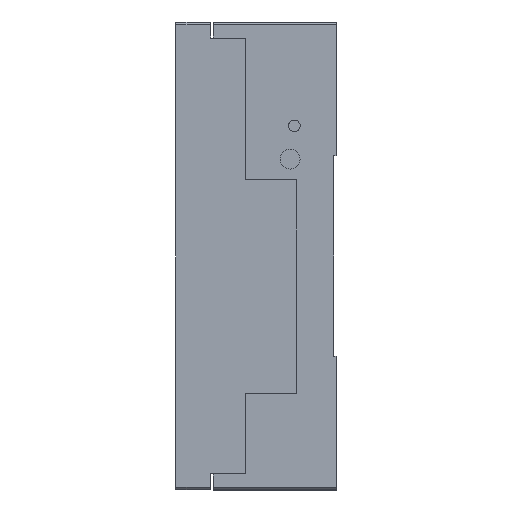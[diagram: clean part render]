
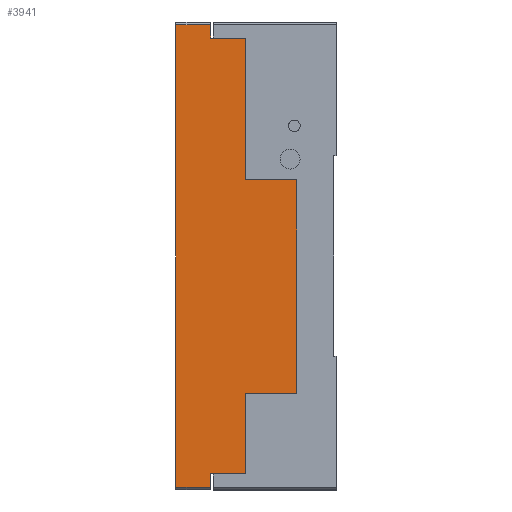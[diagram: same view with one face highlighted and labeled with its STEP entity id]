
A CAD part, left-side view. The second image highlights one B-rep face of the part: STEP entity #3941.
In plain terms, the highlighted planar face has unit normal (-1, 0, 0).
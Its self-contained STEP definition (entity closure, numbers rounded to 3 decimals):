
#13 = CARTESIAN_POINT ( 'NONE',  ( 0., 12., 81.5 ) ) ;
#61 = CARTESIAN_POINT ( 'NONE',  ( 0., 25., 87.5 ) ) ;
#145 = VERTEX_POINT ( 'NONE', #1630 ) ;
#166 = DIRECTION ( 'NONE',  ( 0., 0., 1. ) ) ;
#385 = DIRECTION ( 'NONE',  ( 0., 0., -1. ) ) ;
#414 = DIRECTION ( 'NONE',  ( 0., -1., 0. ) ) ;
#530 = CARTESIAN_POINT ( 'NONE',  ( 0., 12., -86.5 ) ) ;
#643 = LINE ( 'NONE', #5336, #6594 ) ;
#673 = VECTOR ( 'NONE', #6765, 1000. ) ;
#717 = CARTESIAN_POINT ( 'NONE',  ( 0., -20.2, -51.5 ) ) ;
#788 = VERTEX_POINT ( 'NONE', #3086 ) ;
#934 = CARTESIAN_POINT ( 'NONE',  ( 0., 12., 68.5 ) ) ;
#1069 = VECTOR ( 'NONE', #5953, 1000. ) ;
#1186 = ORIENTED_EDGE ( 'NONE', *, *, #5275, .F. ) ;
#1215 = EDGE_CURVE ( 'NONE', #6129, #7255, #643, .T. ) ;
#1273 = CARTESIAN_POINT ( 'NONE',  ( 0., -1., -51.5 ) ) ;
#1430 = DIRECTION ( 'NONE',  ( 0., 1., 0. ) ) ;
#1576 = PLANE ( 'NONE',  #4175 ) ;
#1630 = CARTESIAN_POINT ( 'NONE',  ( 0., 12., 86.5 ) ) ;
#1654 = CARTESIAN_POINT ( 'NONE',  ( 0., 25., 86.5 ) ) ;
#1977 = VECTOR ( 'NONE', #6706, 1000. ) ;
#2166 = VECTOR ( 'NONE', #5624, 1000. ) ;
#2545 = VERTEX_POINT ( 'NONE', #13 ) ;
#2718 = VERTEX_POINT ( 'NONE', #7634 ) ;
#2818 = DIRECTION ( 'NONE',  ( -1., 0., 0. ) ) ;
#2833 = EDGE_CURVE ( 'NONE', #6840, #788, #7209, .T. ) ;
#2837 = ORIENTED_EDGE ( 'NONE', *, *, #4372, .F. ) ;
#2843 = ORIENTED_EDGE ( 'NONE', *, *, #5334, .T. ) ;
#2919 = CARTESIAN_POINT ( 'NONE',  ( 0., 12., -81.5 ) ) ;
#3039 = DIRECTION ( 'NONE',  ( 0., 0., 1. ) ) ;
#3086 = CARTESIAN_POINT ( 'NONE',  ( 0., 12., -86.5 ) ) ;
#3101 = LINE ( 'NONE', #934, #4963 ) ;
#3218 = CARTESIAN_POINT ( 'NONE',  ( 0., 25., -86.5 ) ) ;
#3313 = EDGE_CURVE ( 'NONE', #7695, #7447, #7343, .T. ) ;
#3431 = EDGE_CURVE ( 'NONE', #2545, #145, #3101, .T. ) ;
#3601 = CARTESIAN_POINT ( 'NONE',  ( 0., -1., 81.5 ) ) ;
#3655 = VECTOR ( 'NONE', #7443, 1000. ) ;
#3672 = VERTEX_POINT ( 'NONE', #7126 ) ;
#3683 = CARTESIAN_POINT ( 'NONE',  ( 0., 12., -68.5 ) ) ;
#3710 = VERTEX_POINT ( 'NONE', #4235 ) ;
#3751 = ORIENTED_EDGE ( 'NONE', *, *, #3313, .F. ) ;
#3866 = LINE ( 'NONE', #3683, #7075 ) ;
#3941 = ADVANCED_FACE ( 'NONE', ( #6718 ), #1576, .T. ) ;
#4175 = AXIS2_PLACEMENT_3D ( 'NONE', #61, #2818, #7070 ) ;
#4235 = CARTESIAN_POINT ( 'NONE',  ( 0., -1., 28.5 ) ) ;
#4299 = LINE ( 'NONE', #7576, #6133 ) ;
#4301 = LINE ( 'NONE', #6997, #1977 ) ;
#4361 = LINE ( 'NONE', #1654, #6887 ) ;
#4372 = EDGE_CURVE ( 'NONE', #2718, #7695, #4299, .T. ) ;
#4373 = ORIENTED_EDGE ( 'NONE', *, *, #7077, .F. ) ;
#4610 = EDGE_CURVE ( 'NONE', #2545, #5695, #6812, .T. ) ;
#4767 = ORIENTED_EDGE ( 'NONE', *, *, #2833, .T. ) ;
#4814 = ORIENTED_EDGE ( 'NONE', *, *, #4610, .F. ) ;
#4963 = VECTOR ( 'NONE', #166, 1000. ) ;
#5097 = ORIENTED_EDGE ( 'NONE', *, *, #5471, .F. ) ;
#5124 = EDGE_CURVE ( 'NONE', #145, #3672, #4361, .T. ) ;
#5174 = ORIENTED_EDGE ( 'NONE', *, *, #5124, .T. ) ;
#5180 = LINE ( 'NONE', #6917, #673 ) ;
#5183 = ORIENTED_EDGE ( 'NONE', *, *, #3431, .T. ) ;
#5275 = EDGE_CURVE ( 'NONE', #7447, #6129, #7710, .T. ) ;
#5334 = EDGE_CURVE ( 'NONE', #788, #7255, #3866, .T. ) ;
#5336 = CARTESIAN_POINT ( 'NONE',  ( 0., 0., -81.5 ) ) ;
#5471 = EDGE_CURVE ( 'NONE', #6840, #3672, #7408, .T. ) ;
#5504 = EDGE_CURVE ( 'NONE', #2718, #3710, #5180, .T. ) ;
#5512 = EDGE_LOOP ( 'NONE', ( #4814, #5183, #5174, #5097, #4767, #2843, #6168, #1186, #3751, #2837, #5680, #4373 ) ) ;
#5624 = DIRECTION ( 'NONE',  ( 0., -1., 0. ) ) ;
#5652 = DIRECTION ( 'NONE',  ( 0., 1., 0. ) ) ;
#5680 = ORIENTED_EDGE ( 'NONE', *, *, #5504, .T. ) ;
#5695 = VERTEX_POINT ( 'NONE', #3601 ) ;
#5907 = CARTESIAN_POINT ( 'NONE',  ( 0., 0., 81.5 ) ) ;
#5922 = VECTOR ( 'NONE', #414, 1000. ) ;
#5953 = DIRECTION ( 'NONE',  ( 0., 0., -1. ) ) ;
#6129 = VERTEX_POINT ( 'NONE', #7007 ) ;
#6133 = VECTOR ( 'NONE', #385, 1000. ) ;
#6168 = ORIENTED_EDGE ( 'NONE', *, *, #1215, .F. ) ;
#6594 = VECTOR ( 'NONE', #5652, 1000. ) ;
#6706 = DIRECTION ( 'NONE',  ( 0., 0., -1. ) ) ;
#6718 = FACE_OUTER_BOUND ( 'NONE', #5512, .T. ) ;
#6765 = DIRECTION ( 'NONE',  ( 0., 1., 0. ) ) ;
#6788 = CARTESIAN_POINT ( 'NONE',  ( 0., -20.2, -51.5 ) ) ;
#6812 = LINE ( 'NONE', #5907, #2166 ) ;
#6840 = VERTEX_POINT ( 'NONE', #3218 ) ;
#6887 = VECTOR ( 'NONE', #1430, 1000. ) ;
#6893 = CARTESIAN_POINT ( 'NONE',  ( 0., -1., 81.5 ) ) ;
#6910 = DIRECTION ( 'NONE',  ( 0., 1., 0. ) ) ;
#6917 = CARTESIAN_POINT ( 'NONE',  ( 0., -20.2, 28.5 ) ) ;
#6997 = CARTESIAN_POINT ( 'NONE',  ( 0., -1., 81.5 ) ) ;
#7007 = CARTESIAN_POINT ( 'NONE',  ( 0., -1., -81.5 ) ) ;
#7070 = DIRECTION ( 'NONE',  ( 0., 0., 1. ) ) ;
#7075 = VECTOR ( 'NONE', #3039, 1000. ) ;
#7077 = EDGE_CURVE ( 'NONE', #5695, #3710, #4301, .T. ) ;
#7126 = CARTESIAN_POINT ( 'NONE',  ( 0., 25., 86.5 ) ) ;
#7209 = LINE ( 'NONE', #530, #5922 ) ;
#7255 = VERTEX_POINT ( 'NONE', #2919 ) ;
#7343 = LINE ( 'NONE', #6788, #7751 ) ;
#7408 = LINE ( 'NONE', #7569, #3655 ) ;
#7443 = DIRECTION ( 'NONE',  ( 0., 0., 1. ) ) ;
#7447 = VERTEX_POINT ( 'NONE', #1273 ) ;
#7569 = CARTESIAN_POINT ( 'NONE',  ( 0., 25., 87.5 ) ) ;
#7576 = CARTESIAN_POINT ( 'NONE',  ( 0., -20.2, 28.5 ) ) ;
#7634 = CARTESIAN_POINT ( 'NONE',  ( 0., -20.2, 28.5 ) ) ;
#7695 = VERTEX_POINT ( 'NONE', #717 ) ;
#7710 = LINE ( 'NONE', #6893, #1069 ) ;
#7751 = VECTOR ( 'NONE', #6910, 1000. ) ;
